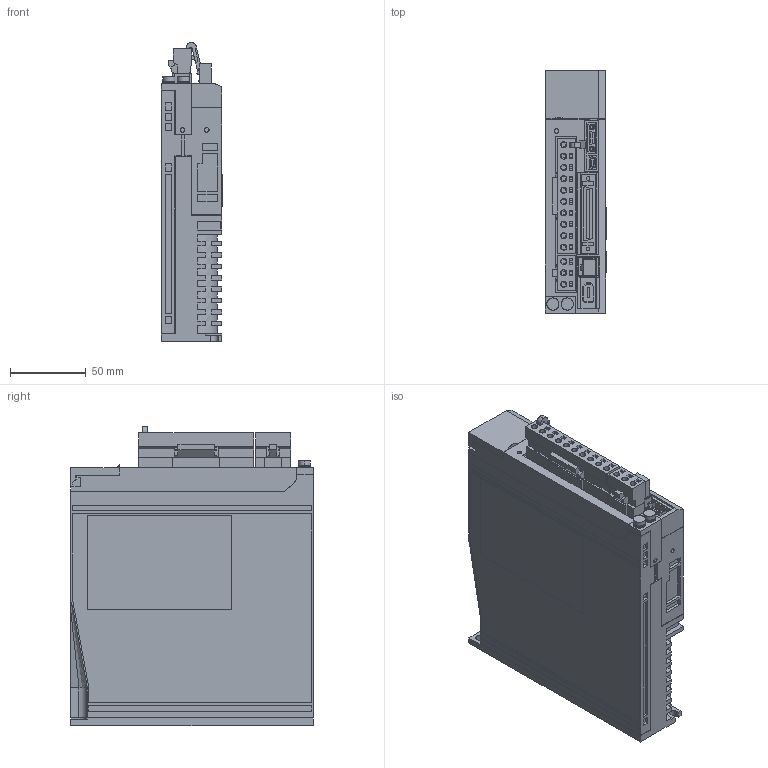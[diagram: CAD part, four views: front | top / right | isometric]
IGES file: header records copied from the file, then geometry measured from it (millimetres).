
Start section: SolidWorks IGES file using analytic representation for surfaces
Global section: file name: C:\YASKAWA\sgdv_2r1f0_a.IGS; native system: SolidWorks 2006 by SolidWorks Corporation; preprocessor: SolidWorks 2006 by SolidWorks Corporation; author: yamanouchi; date: 080617.172255; units: millimetre
Bounding box: 40.5 x 160 x 197.17 mm (x, y, z)
Surface area: 157213.5 mm2 (no closed solid volume)
Topology: 0 solids, 0 shells, 1868 faces, 14731 edges, 14731 vertices
Faces by surface type: bspline 1626, revolution 242
